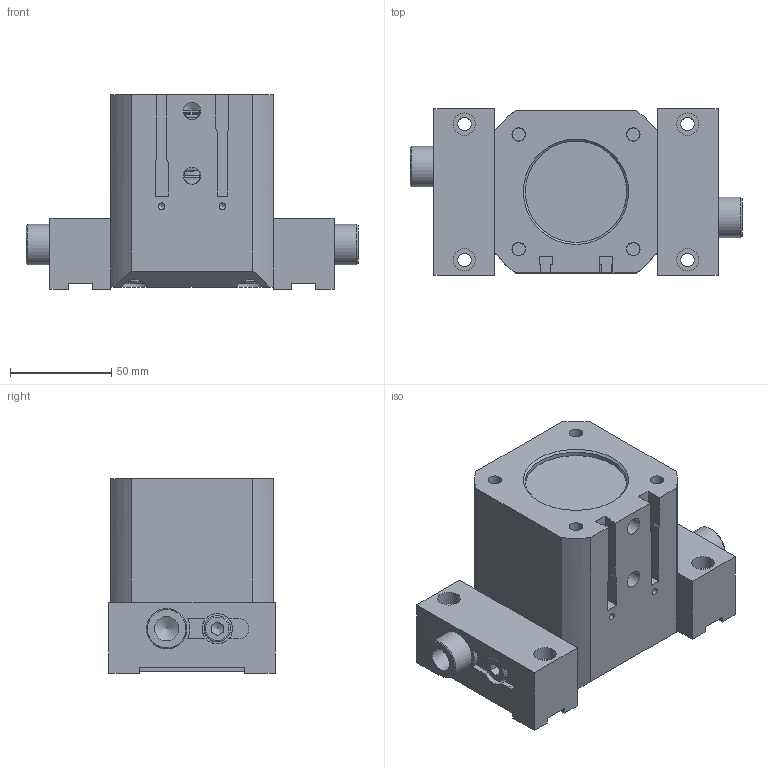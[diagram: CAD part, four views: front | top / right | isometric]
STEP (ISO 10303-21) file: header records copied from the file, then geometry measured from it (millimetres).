
FILE_DESCRIPTION((''),'2;1');
FILE_NAME('T:\CAD\Standard\Daten\3D-Datenbank\GP\4 - 3D-CAD-Daten GP 050-125\GP100\step-Daten\G-GP100-l1-GS+UB closed.stp','2013-11-07T11:16:43',('Dirk'),(''),'Autodesk Inventor 2011','Autodesk Inventor 2011','');
FILE_SCHEMA(('AUTOMOTIVE_DESIGN { 1 0 10303 214 1 1 1 1 }'));
Length unit declared in the file: millimetre
Products named in the file (1): Bauteil39
Bounding box: 163.83 x 82 x 96 mm (x, y, z)
Volume: 628461.8 mm3; surface area: 143052.9 mm2
Topology: 1 solids, 16 shells, 413 faces, 1027 edges, 661 vertices
Faces by surface type: plane 235, cylinder 115, cone 38, torus 24, bspline 1
Full cylindrical faces by diameter (mm): 3.242 x2, 6.647 x10, 8 x6, 8.2 x4, 8.376 x1, 8.566 x2, 9 x2, 10 x1, 11 x6, 12 x2, 13 x6, 15 x8, 20 x7, 22 x5, 23 x2, 24 x1, 28.4 x2, 33 x2, 48 x2, 50 x1, 52 x2, 54.2 x1, 61.1 x2, 62 x1, 64 x4
Entity records: 12568 total; most frequent: CARTESIAN_POINT 3086, DIRECTION 1898, ORIENTED_EDGE 1646, EDGE_CURVE 823, AXIS2_PLACEMENT_3D 734, EDGE_LOOP 625, VERTEX_POINT 596, VECTOR 430
